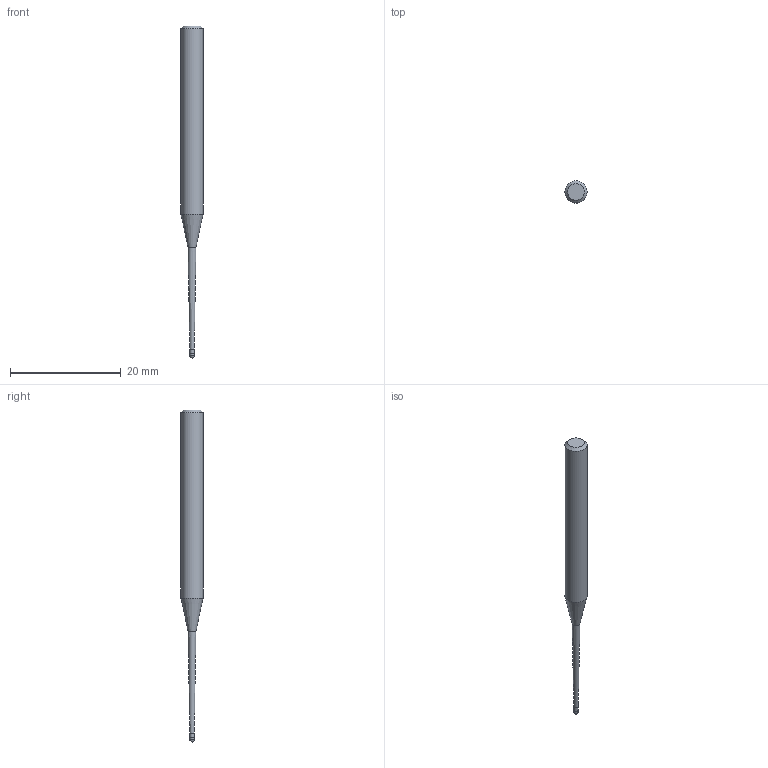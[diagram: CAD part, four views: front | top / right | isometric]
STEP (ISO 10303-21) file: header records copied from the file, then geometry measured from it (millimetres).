
FILE_DESCRIPTION((''),'2;1');
FILE_NAME('C:\Users\nsx150\AppData\Local\Temp\Mastercam 2021\SNAKH10GOD\TEMP.step','2021-10-21T13:31:54',(''),(''),'STEP Write','Mastercam 2021 ... CNC Software, Inc.','');
FILE_SCHEMA(('AUTOMOTIVE_DESIGN'));
Length unit declared in the file: millimetre
Products named in the file (1): None
Bounding box: 4 x 4 x 60 mm (x, y, z)
Volume: 482.2 mm3; surface area: 557.4 mm2
Topology: 2 solids, 2 shells, 10 faces, 16 edges, 9 vertices
Faces by surface type: plane 3, cylinder 3, cone 3, sphere 1
Full cylindrical faces by diameter (mm): 0.785 x1, 0.8 x1, 4 x1
Entity records: 232 total; most frequent: DIRECTION 40, CARTESIAN_POINT 28, AXIS2_PLACEMENT_3D 20, ORIENTED_EDGE 16, EDGE_LOOP 16, STYLED_ITEM 13, ADVANCED_FACE 10, FACE_BOUND 9
